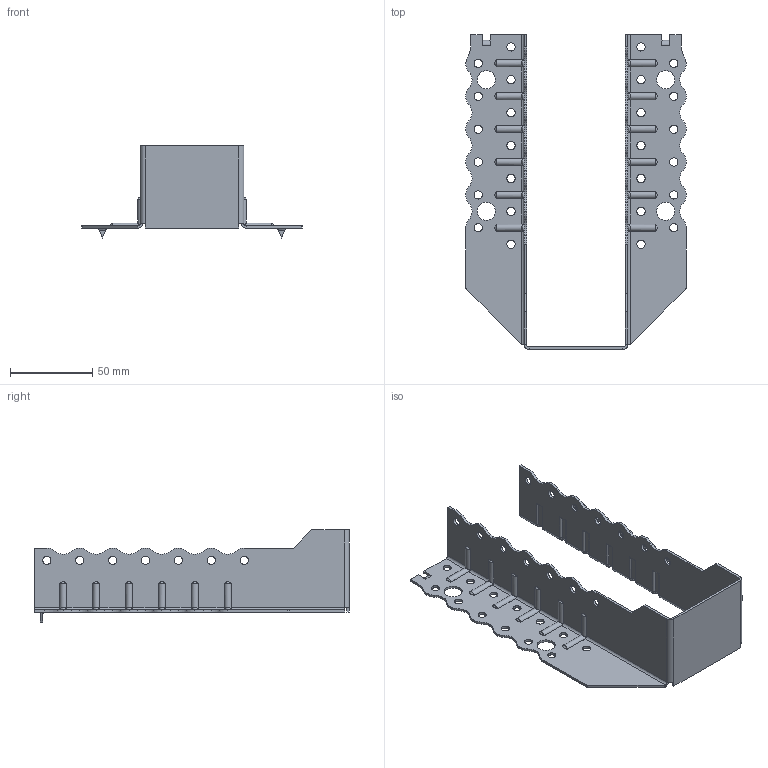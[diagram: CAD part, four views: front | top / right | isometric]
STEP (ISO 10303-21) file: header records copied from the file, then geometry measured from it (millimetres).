
FILE_DESCRIPTION (( 'STEP AP203' ), '1' );
FILE_NAME ('30624TOPK.STEP', '2021-04-08T14:54:17', ( '' ), ( '' ), 'SwSTEP 2.0', 'SolidWorks 2013', '' );
FILE_SCHEMA (( 'CONFIG_CONTROL_DESIGN' ));
Length unit declared in the file: millimetre
Products named in the file (1): 30624TOPK
Bounding box: 134 x 191.5 x 56 mm (x, y, z)
Volume: 42483.3 mm3; surface area: 60490.9 mm2
Topology: 1 solids, 1 shells, 496 faces, 1342 edges, 848 vertices
Faces by surface type: cylinder 315, plane 133, torus 24, bspline 24
Entity records: 18521 total; most frequent: CARTESIAN_POINT 5917, ORIENTED_EDGE 2684, DIRECTION 2582, EDGE_CURVE 1342, AXIS2_PLACEMENT_3D 943, VERTEX_POINT 848, LINE 696, VECTOR 696
